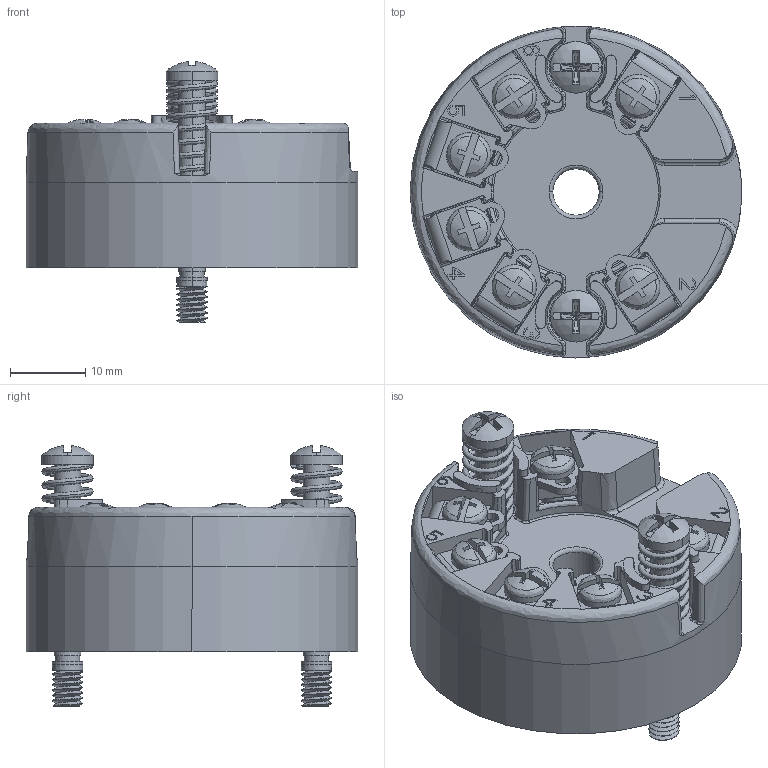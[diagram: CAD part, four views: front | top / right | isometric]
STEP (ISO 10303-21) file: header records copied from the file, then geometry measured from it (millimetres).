
FILE_DESCRIPTION (( 'STEP AP214' ), '1' );
FILE_NAME ('5300.STEP', '2017-05-23T08:56:06', ( '' ), ( '' ), 'SwSTEP 2.0', 'SolidWorks 2017', '' );
FILE_SCHEMA (( 'AUTOMOTIVE_DESIGN' ));
Length unit declared in the file: millimetre
Products named in the file (7): Screw 5400 - GD; Tophat_PR - GD; Fjeder - GD; Motrik_TR_131212; Stikben_TR_131212; Skrue_M3; 5300
Assembly tree (23 placements, depth 2):
  5300
    Tophat_PR - GD
    Motrik_TR_131212  x6
    Stikben_TR_131212  x6
    Skrue_M3  x6
    Fjeder - GD  x2
    Screw 5400 - GD  x2
Bounding box: 44 x 44 x 34.57 mm (x, y, z)
Volume: 23834.1 mm3; surface area: 12744.2 mm2
Topology: 23 solids, 23 shells, 1322 faces, 3571 edges, 2313 vertices
Faces by surface type: plane 694, cylinder 352, bspline 208, cone 64, sphere 4
Entity records: 33368 total; most frequent: CARTESIAN_POINT 13018, ORIENTED_EDGE 4392, DIRECTION 3470, EDGE_CURVE 2196, VERTEX_POINT 1437, VECTOR 1368, LINE 1368, AXIS2_PLACEMENT_3D 1051
